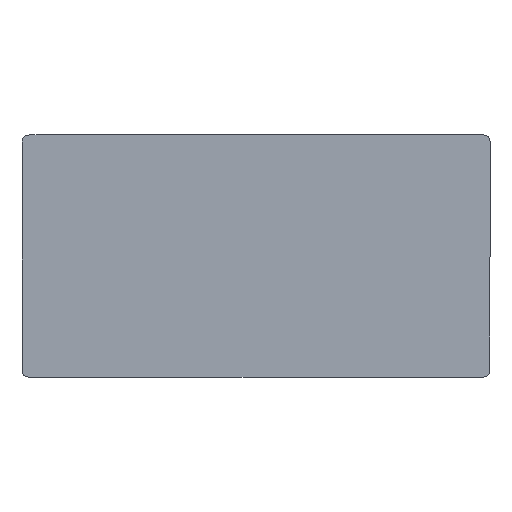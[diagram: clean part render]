
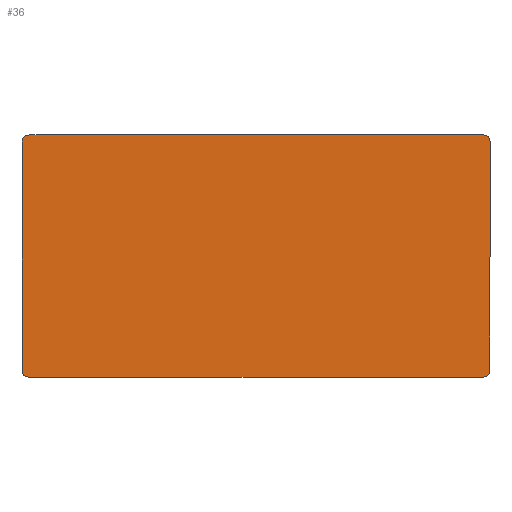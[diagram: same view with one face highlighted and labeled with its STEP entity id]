
A CAD part, top view. The second image highlights one B-rep face of the part: STEP entity #36.
In plain terms, the highlighted planar face has unit normal (0, 0, 1).
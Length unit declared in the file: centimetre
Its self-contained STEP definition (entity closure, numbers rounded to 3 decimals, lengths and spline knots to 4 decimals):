
#36=ADVANCED_FACE($,(#54),#223,.T.);
#54=FACE_OUTER_BOUND($,#72,.T.);
#72=EDGE_LOOP($,(#140,#141));
#140=ORIENTED_EDGE($,*,*,#178,.T.);
#141=ORIENTED_EDGE($,*,*,#181,.T.);
#178=EDGE_CURVE($,#203,#205,#255,.T.);
#181=EDGE_CURVE($,#205,#203,#257,.T.);
#203=VERTEX_POINT($,#783);
#205=VERTEX_POINT($,#785);
#223=PLANE($,#351);
#255=(
BOUNDED_CURVE()
B_SPLINE_CURVE(2,(#715,#716,#717,#718,#719,#720,#721,#722,#723),.UNSPECIFIED.,
.F.,.F.)
B_SPLINE_CURVE_WITH_KNOTS((3,2,2,2,3),(4334.2478,4365.6637,
5775.6637,5807.0796,6517.0796),.UNSPECIFIED.)
CURVE()
GEOMETRIC_REPRESENTATION_ITEM()
RATIONAL_B_SPLINE_CURVE((1.,0.707,1.,1.,1.,0.707,
1.,1.,1.))
REPRESENTATION_ITEM($)
);
#257=(
BOUNDED_CURVE()
B_SPLINE_CURVE(2,(#735,#736,#737,#738,#739,#740,#741,#742,#743),.UNSPECIFIED.,
.F.,.F.)
B_SPLINE_CURVE_WITH_KNOTS((3,2,2,2,3),(6517.0796,6548.4956,
7958.4956,7989.9115,8699.9115),.UNSPECIFIED.)
CURVE()
GEOMETRIC_REPRESENTATION_ITEM()
RATIONAL_B_SPLINE_CURVE((1.,0.707,1.,1.,1.,0.707,
1.,1.,1.))
REPRESENTATION_ITEM($)
);
#351=AXIS2_PLACEMENT_3D($,#763,#360,$);
#360=DIRECTION($,(0.,0.,1.));
#715=CARTESIAN_POINT($,(-8.0313,-2.8678,41.7));
#716=CARTESIAN_POINT($,(-8.0313,-4.8678,41.7));
#717=CARTESIAN_POINT($,(-6.0313,-4.8678,41.7));
#718=CARTESIAN_POINT($,(64.4687,-4.8678,41.7));
#719=CARTESIAN_POINT($,(134.9687,-4.8678,41.7));
#720=CARTESIAN_POINT($,(136.9687,-4.8678,41.7));
#721=CARTESIAN_POINT($,(136.9687,-2.8678,41.7));
#722=CARTESIAN_POINT($,(136.9687,32.6322,41.7));
#723=CARTESIAN_POINT($,(136.9687,68.1322,41.7));
#735=CARTESIAN_POINT($,(136.9687,68.1322,41.7));
#736=CARTESIAN_POINT($,(136.9687,70.1322,41.7));
#737=CARTESIAN_POINT($,(134.9687,70.1322,41.7));
#738=CARTESIAN_POINT($,(64.4687,70.1322,41.7));
#739=CARTESIAN_POINT($,(-6.0313,70.1322,41.7));
#740=CARTESIAN_POINT($,(-8.0313,70.1322,41.7));
#741=CARTESIAN_POINT($,(-8.0313,68.1322,41.7));
#742=CARTESIAN_POINT($,(-8.0313,32.6322,41.7));
#743=CARTESIAN_POINT($,(-8.0313,-2.8678,41.7));
#763=CARTESIAN_POINT($,(-8.0313,-4.8678,41.7));
#783=CARTESIAN_POINT($,(-8.0313,-2.8678,41.7));
#785=CARTESIAN_POINT($,(136.9687,68.1322,41.7));
